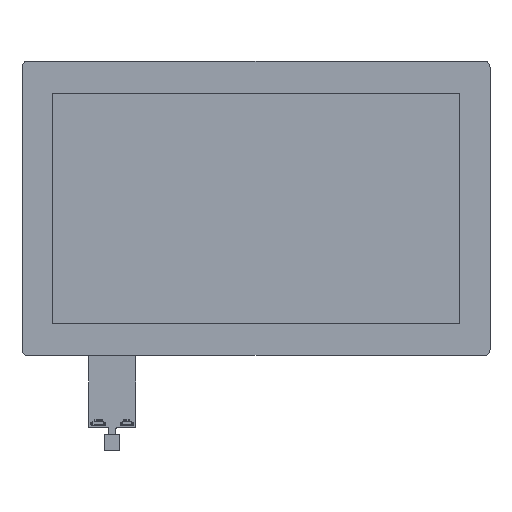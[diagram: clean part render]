
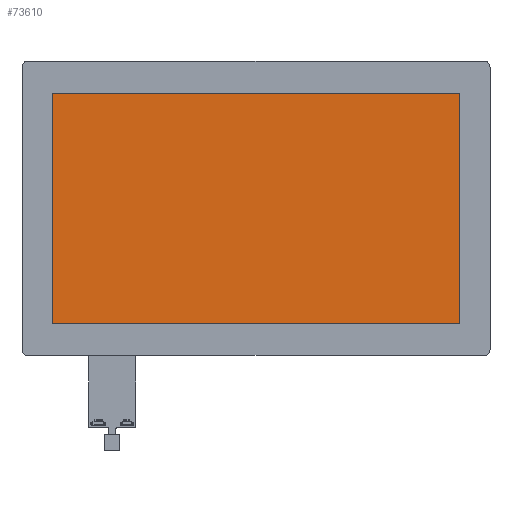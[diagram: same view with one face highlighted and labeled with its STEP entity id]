
A CAD part, top view. The second image highlights one B-rep face of the part: STEP entity #73610.
In plain terms, the highlighted planar face has unit normal (0, 0, 1).
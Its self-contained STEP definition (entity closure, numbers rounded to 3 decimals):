
#639 = VECTOR ( 'NONE', #7595, 1000. ) ;
#2222 = VERTEX_POINT ( 'NONE', #56789 ) ;
#7595 = DIRECTION ( 'NONE',  ( 0., -1., 0. ) ) ;
#12601 = DIRECTION ( 'NONE',  ( 1., 0., 0. ) ) ;
#14654 = CARTESIAN_POINT ( 'NONE',  ( -173.78, -97.29, 10.05 ) ) ;
#14825 = DIRECTION ( 'NONE',  ( -1., 0., 0. ) ) ;
#18084 = VECTOR ( 'NONE', #67087, 1000. ) ;
#20871 = CARTESIAN_POINT ( 'NONE',  ( 171.36, -97.29, 10.05 ) ) ;
#25824 = ORIENTED_EDGE ( 'NONE', *, *, #28204, .T. ) ;
#25858 = CARTESIAN_POINT ( 'NONE',  ( 171.36, 97.35, 10.05 ) ) ;
#27019 = ORIENTED_EDGE ( 'NONE', *, *, #87454, .T. ) ;
#28204 = EDGE_CURVE ( 'NONE', #70118, #60810, #39533, .T. ) ;
#29243 = CARTESIAN_POINT ( 'NONE',  ( 0., 97.35, 10.05 ) ) ;
#32307 = EDGE_CURVE ( 'NONE', #60810, #44786, #50200, .T. ) ;
#34049 = EDGE_CURVE ( 'NONE', #44786, #2222, #35147, .T. ) ;
#34687 = CARTESIAN_POINT ( 'NONE',  ( -173.78, 0., 10.05 ) ) ;
#35147 = LINE ( 'NONE', #29243, #64605 ) ;
#36057 = EDGE_LOOP ( 'NONE', ( #25824, #77004, #53027, #27019 ) ) ;
#38317 = DIRECTION ( 'NONE',  ( 0., 0., 1. ) ) ;
#39533 = LINE ( 'NONE', #66625, #18084 ) ;
#43426 = DIRECTION ( 'NONE',  ( 0., 1., 0. ) ) ;
#44786 = VERTEX_POINT ( 'NONE', #25858 ) ;
#46433 = PLANE ( 'NONE',  #66154 ) ;
#50200 = LINE ( 'NONE', #57418, #51604 ) ;
#51604 = VECTOR ( 'NONE', #43426, 1000. ) ;
#53027 = ORIENTED_EDGE ( 'NONE', *, *, #34049, .T. ) ;
#53660 = CARTESIAN_POINT ( 'NONE',  ( 0., 0., 10.05 ) ) ;
#55885 = LINE ( 'NONE', #34687, #639 ) ;
#56789 = CARTESIAN_POINT ( 'NONE',  ( -173.78, 97.35, 10.05 ) ) ;
#57418 = CARTESIAN_POINT ( 'NONE',  ( 171.36, 0., 10.05 ) ) ;
#59977 = FACE_OUTER_BOUND ( 'NONE', #36057, .T. ) ;
#60810 = VERTEX_POINT ( 'NONE', #20871 ) ;
#64605 = VECTOR ( 'NONE', #14825, 1000. ) ;
#66154 = AXIS2_PLACEMENT_3D ( 'NONE', #53660, #38317, #12601 ) ;
#66625 = CARTESIAN_POINT ( 'NONE',  ( 0., -97.29, 10.05 ) ) ;
#67087 = DIRECTION ( 'NONE',  ( 1., 0., 0. ) ) ;
#70118 = VERTEX_POINT ( 'NONE', #14654 ) ;
#73610 = ADVANCED_FACE ( 'NONE', ( #59977 ), #46433, .T. ) ;
#77004 = ORIENTED_EDGE ( 'NONE', *, *, #32307, .T. ) ;
#87454 = EDGE_CURVE ( 'NONE', #2222, #70118, #55885, .T. ) ;
